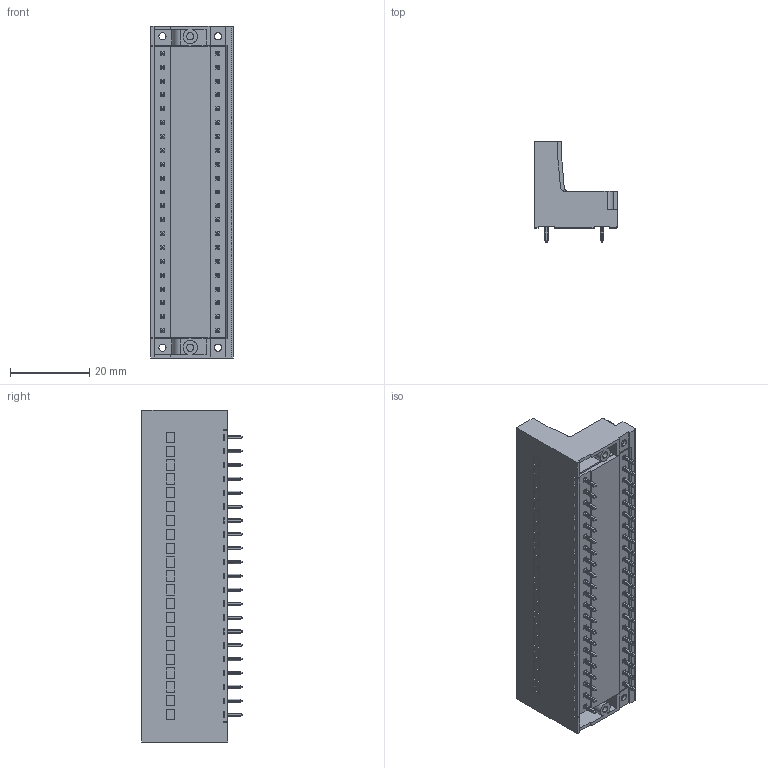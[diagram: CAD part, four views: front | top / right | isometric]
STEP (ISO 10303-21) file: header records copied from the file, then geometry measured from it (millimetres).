
FILE_DESCRIPTION (( 'STEP AP203' ), '1' );
FILE_NAME ('110-S-225-42.STEP', '2017-01-23T18:37:52', ( '' ), ( '' ), 'SwSTEP 2.0', 'SolidWorks 2016', '' );
FILE_SCHEMA (( 'CONFIG_CONTROL_DESIGN' ));
Products named in the file (1): 110-S-225-42
Bounding box: 20.9 x 25.3 x 83.8 mm (x, y, z)
Volume: 16999.2 mm3; surface area: 18797.1 mm2
Topology: 1 solids, 131 shells, 5282 faces, 13783 edges, 8993 vertices
Faces by surface type: plane 4068, cylinder 969, cone 229, torus 16
Entity records: 159110 total; most frequent: CARTESIAN_POINT 34359, ORIENTED_EDGE 27566, DIRECTION 23547, EDGE_CURVE 13783, LINE 10385, VECTOR 10385, VERTEX_POINT 8993, AXIS2_PLACEMENT_3D 6581
